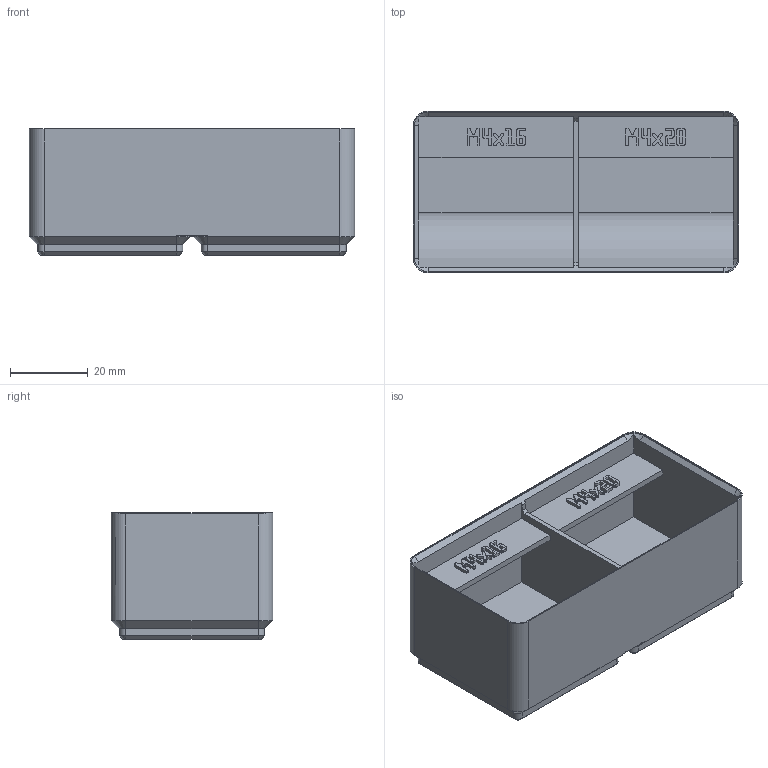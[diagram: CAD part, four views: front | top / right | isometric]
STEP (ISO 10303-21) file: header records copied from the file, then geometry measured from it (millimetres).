
FILE_DESCRIPTION(('Open CASCADE Model'),'2;1');
FILE_NAME('Open CASCADE Shape Model','2026-11-16T13:40:26',('Author'),( 'Open CASCADE'),'Open CASCADE STEP processor 8.0','build123d', 'Unknown');
FILE_SCHEMA(('AUTOMOTIVE_DESIGN { 1 0 10303 214 1 1 1 1 }'));
Products named in the file (1): SOLID
Bounding box: 83.5 x 41.5 x 32.4 mm (x, y, z)
Volume: 45397.7 mm3; surface area: 22312.8 mm2
Topology: 1 solids, 1 shells, 1109 faces, 3220 edges, 2128 vertices
Faces by surface type: plane 1067, cylinder 22, cone 20
Entity records: 75428 total; most frequent: CARTESIAN_POINT 15303, DIRECTION 9642, LINE 7271, VECTOR 7271, ORIENTED_EDGE 6440, PCURVE 6440, DEFINITIONAL_REPRESENTATION 6440, EDGE_CURVE 3220
